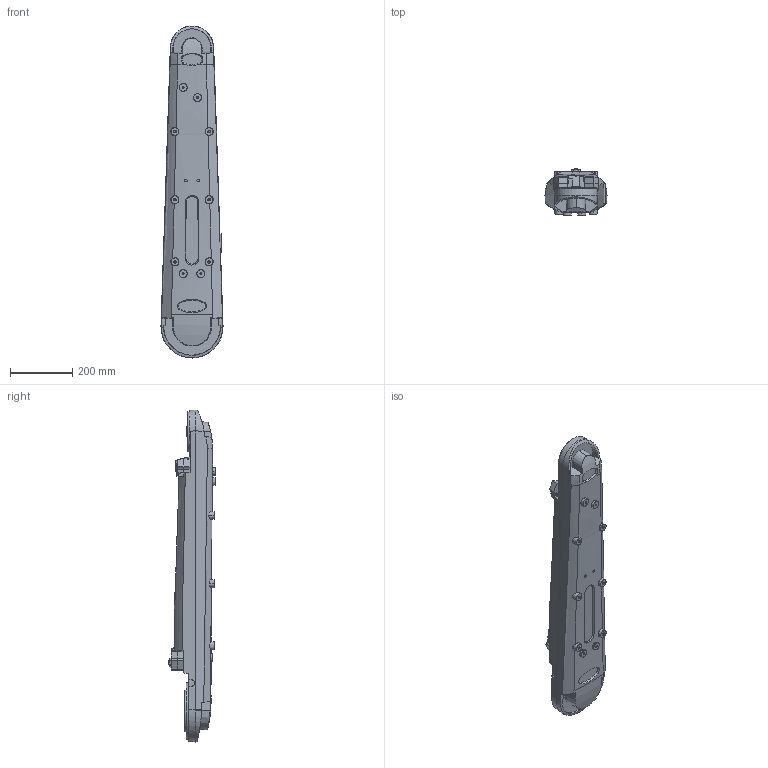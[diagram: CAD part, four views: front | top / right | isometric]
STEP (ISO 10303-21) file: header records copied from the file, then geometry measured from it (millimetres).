
FILE_DESCRIPTION (( 'STEP AP214' ), '1' );
FILE_NAME ('IRB2600ID_15kg-185_LINK2_CAD_rev02.STEP', '2016-12-02T13:00:27', ( 'ABB' ), ( 'ABB' ), 'SwSTEP 2.0', 'SolidWorks 2014', '' );
FILE_SCHEMA (( 'AUTOMOTIVE_DESIGN' ));
Length unit declared in the file: millimetre
Products named in the file (1): IRB2600ID_15kg-185_LINK2_CAD_rev02
Bounding box: 200 x 150 x 1070 mm (x, y, z)
Volume: 15785844.3 mm3; surface area: 601448.9 mm2
Topology: 1 solids, 1 shells, 446 faces, 1240 edges, 833 vertices
Faces by surface type: plane 209, cone 117, cylinder 61, bspline 59
Entity records: 30070 total; most frequent: CARTESIAN_POINT 19676, ORIENTED_EDGE 2472, DIRECTION 1562, EDGE_CURVE 1236, VERTEX_POINT 833, VECTOR 630, LINE 630, B_SPLINE_CURVE_WITH_KNOTS 527
